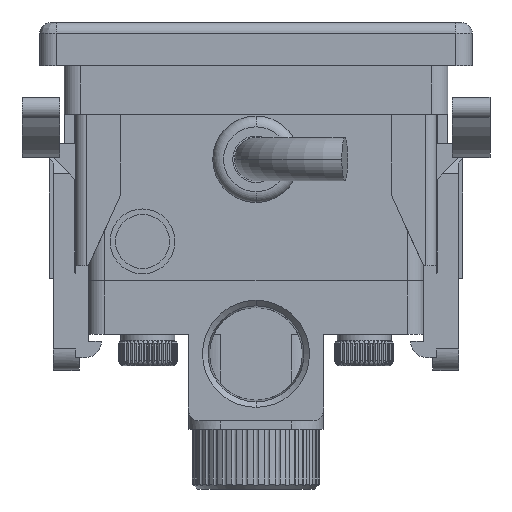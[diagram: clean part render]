
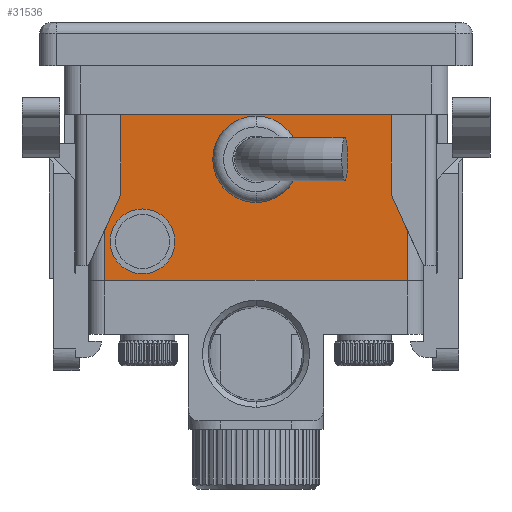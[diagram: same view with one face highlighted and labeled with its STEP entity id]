
A CAD part, front view. The second image highlights one B-rep face of the part: STEP entity #31536.
In plain terms, the highlighted planar face has unit normal (0, -1, 0).
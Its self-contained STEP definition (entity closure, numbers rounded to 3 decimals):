
#6298=DIRECTION('',(1.,0.,0.));
#6299=VECTOR('',#6298,25.);
#6300=CARTESIAN_POINT('',(-12.5,0.,6.85));
#6301=LINE('',#6300,#6299);
#6302=DIRECTION('',(0.,0.,-1.));
#6303=VECTOR('',#6302,6.85);
#6304=CARTESIAN_POINT('',(12.5,0.,6.85));
#6305=LINE('',#6304,#6303);
#6306=DIRECTION('',(0.,0.,1.));
#6307=VECTOR('',#6306,0.05);
#6308=CARTESIAN_POINT('',(12.5,0.,-0.05));
#6309=LINE('',#6308,#6307);
#6310=DIRECTION('',(0.,0.,-1.));
#6311=VECTOR('',#6310,0.5);
#6312=CARTESIAN_POINT('',(12.5,0.,-0.05));
#6313=LINE('',#6312,#6311);
#6314=DIRECTION('',(-0.414,0.,0.91));
#6315=VECTOR('',#6314,3.625);
#6316=CARTESIAN_POINT('',(14.,0.,-3.85));
#6317=LINE('',#6316,#6315);
#6318=DIRECTION('',(0.,0.,1.));
#6319=VECTOR('',#6318,4.65);
#6320=CARTESIAN_POINT('',(-14.,0.,-8.5));
#6321=LINE('',#6320,#6319);
#6322=DIRECTION('',(0.414,0.,0.91));
#6323=VECTOR('',#6322,3.625);
#6324=CARTESIAN_POINT('',(-14.,0.,-3.85));
#6325=LINE('',#6324,#6323);
#6326=DIRECTION('',(0.,0.,-1.));
#6327=VECTOR('',#6326,0.5);
#6328=CARTESIAN_POINT('',(-12.5,0.,-0.05));
#6329=LINE('',#6328,#6327);
#6330=DIRECTION('',(0.,0.,1.));
#6331=VECTOR('',#6330,0.05);
#6332=CARTESIAN_POINT('',(-12.5,0.,-0.05));
#6333=LINE('',#6332,#6331);
#6334=DIRECTION('',(0.,0.,-1.));
#6335=VECTOR('',#6334,6.85);
#6336=CARTESIAN_POINT('',(-12.5,0.,6.85));
#6337=LINE('',#6336,#6335);
#6338=CARTESIAN_POINT('',(0.,0.,2.7));
#6339=DIRECTION('',(0.,-1.,0.));
#6340=DIRECTION('',(0.,0.,-1.));
#6341=AXIS2_PLACEMENT_3D('',#6338,#6339,#6340);
#6343=CARTESIAN_POINT('',(0.,0.,2.7));
#6344=DIRECTION('',(0.,-1.,0.));
#6345=DIRECTION('',(0.,0.,1.));
#6346=AXIS2_PLACEMENT_3D('',#6343,#6344,#6345);
#6348=CARTESIAN_POINT('',(-10.5,0.,-4.9));
#6349=DIRECTION('',(0.,-1.,0.));
#6350=DIRECTION('',(1.,0.,0.));
#6351=AXIS2_PLACEMENT_3D('',#6348,#6349,#6350);
#6353=CARTESIAN_POINT('',(-10.5,0.,-4.9));
#6354=DIRECTION('',(0.,-1.,0.));
#6355=DIRECTION('',(-1.,0.,0.));
#6356=AXIS2_PLACEMENT_3D('',#6353,#6354,#6355);
#6398=DIRECTION('',(0.,0.,1.));
#6399=VECTOR('',#6398,4.65);
#6400=CARTESIAN_POINT('',(14.,0.,-8.5));
#6401=LINE('',#6400,#6399);
#6482=DIRECTION('',(1.,0.,0.));
#6483=VECTOR('',#6482,28.);
#6484=CARTESIAN_POINT('',(-14.,0.,-8.5));
#6485=LINE('',#6484,#6483);
#17718=CARTESIAN_POINT('',(-14.,0.,-8.5));
#17719=CARTESIAN_POINT('',(14.,0.,-8.5));
#17720=VERTEX_POINT('',#17718);
#17721=VERTEX_POINT('',#17719);
#17730=CARTESIAN_POINT('',(-7.5,0.,-4.9));
#17731=CARTESIAN_POINT('',(-13.5,0.,-4.9));
#17732=VERTEX_POINT('',#17730);
#17733=VERTEX_POINT('',#17731);
#17746=CARTESIAN_POINT('',(0.,0.,-1.3));
#17747=VERTEX_POINT('',#17746);
#17748=CARTESIAN_POINT('',(0.,0.,6.7));
#17749=VERTEX_POINT('',#17748);
#21535=CARTESIAN_POINT('',(-14.,0.,-3.85));
#21537=VERTEX_POINT('',#21535);
#21541=CARTESIAN_POINT('',(-12.5,0.,6.85));
#21542=CARTESIAN_POINT('',(12.5,0.,6.85));
#21543=VERTEX_POINT('',#21541);
#21544=VERTEX_POINT('',#21542);
#21545=CARTESIAN_POINT('',(12.5,0.,0.));
#21546=VERTEX_POINT('',#21545);
#21547=CARTESIAN_POINT('',(12.5,0.,-0.05));
#21548=CARTESIAN_POINT('',(12.5,0.,-0.55));
#21549=VERTEX_POINT('',#21547);
#21550=VERTEX_POINT('',#21548);
#21551=CARTESIAN_POINT('',(-12.5,0.,0.));
#21552=VERTEX_POINT('',#21551);
#21553=CARTESIAN_POINT('',(-12.5,0.,-0.05));
#21554=CARTESIAN_POINT('',(-12.5,0.,-0.55));
#21555=VERTEX_POINT('',#21553);
#21556=VERTEX_POINT('',#21554);
#21557=CARTESIAN_POINT('',(14.,0.,-3.85));
#21558=VERTEX_POINT('',#21557);
#31494=CARTESIAN_POINT('',(-14.,0.,-8.5));
#31495=DIRECTION('',(0.,-1.,0.));
#31496=DIRECTION('',(1.,0.,0.));
#31497=AXIS2_PLACEMENT_3D('',#31494,#31495,#31496);
#31498=PLANE('',#31497);
#31499=ORIENTED_EDGE('',*,*,#31445,.T.);
#31501=ORIENTED_EDGE('',*,*,#31500,.T.);
#31503=ORIENTED_EDGE('',*,*,#31502,.F.);
#31505=ORIENTED_EDGE('',*,*,#31504,.T.);
#31507=ORIENTED_EDGE('',*,*,#31506,.F.);
#31509=ORIENTED_EDGE('',*,*,#31508,.F.);
#31511=ORIENTED_EDGE('',*,*,#31510,.F.);
#31513=ORIENTED_EDGE('',*,*,#31512,.T.);
#31515=ORIENTED_EDGE('',*,*,#31514,.T.);
#31517=ORIENTED_EDGE('',*,*,#31516,.F.);
#31519=ORIENTED_EDGE('',*,*,#31518,.T.);
#31521=ORIENTED_EDGE('',*,*,#31520,.F.);
#31522=EDGE_LOOP('',(#31499,#31501,#31503,#31505,#31507,#31509,#31511,#31513,
#31515,#31517,#31519,#31521));
#31523=FACE_OUTER_BOUND('',#31522,.F.);
#31525=ORIENTED_EDGE('',*,*,#31524,.T.);
#31527=ORIENTED_EDGE('',*,*,#31526,.T.);
#31528=EDGE_LOOP('',(#31525,#31527));
#31529=FACE_BOUND('',#31528,.F.);
#31531=ORIENTED_EDGE('',*,*,#31530,.T.);
#31533=ORIENTED_EDGE('',*,*,#31532,.T.);
#31534=EDGE_LOOP('',(#31531,#31533));
#31535=FACE_BOUND('',#31534,.F.);
#31536=ADVANCED_FACE('',(#31523,#31529,#31535),#31498,.T.);
#6342=CIRCLE('',#6341,4.);
#6347=CIRCLE('',#6346,4.);
#6352=CIRCLE('',#6351,3.);
#6357=CIRCLE('',#6356,3.);
#31445=EDGE_CURVE('',#21543,#21544,#6301,.T.);
#31500=EDGE_CURVE('',#21544,#21546,#6305,.T.);
#31502=EDGE_CURVE('',#21549,#21546,#6309,.T.);
#31504=EDGE_CURVE('',#21549,#21550,#6313,.T.);
#31506=EDGE_CURVE('',#21558,#21550,#6317,.T.);
#31508=EDGE_CURVE('',#17721,#21558,#6401,.T.);
#31510=EDGE_CURVE('',#17720,#17721,#6485,.T.);
#31512=EDGE_CURVE('',#17720,#21537,#6321,.T.);
#31514=EDGE_CURVE('',#21537,#21556,#6325,.T.);
#31516=EDGE_CURVE('',#21555,#21556,#6329,.T.);
#31518=EDGE_CURVE('',#21555,#21552,#6333,.T.);
#31520=EDGE_CURVE('',#21543,#21552,#6337,.T.);
#31524=EDGE_CURVE('',#17747,#17749,#6342,.T.);
#31526=EDGE_CURVE('',#17749,#17747,#6347,.T.);
#31530=EDGE_CURVE('',#17732,#17733,#6352,.T.);
#31532=EDGE_CURVE('',#17733,#17732,#6357,.T.);
